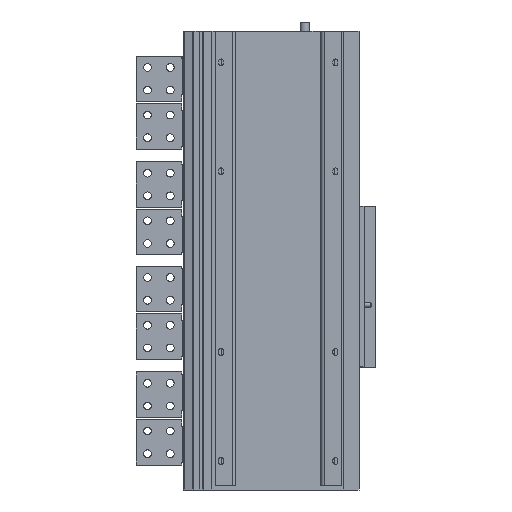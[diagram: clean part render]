
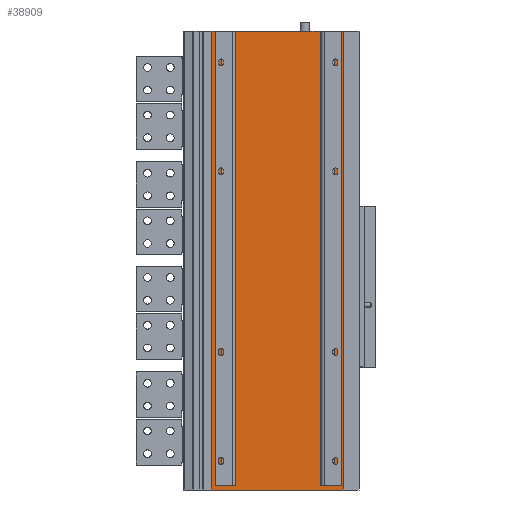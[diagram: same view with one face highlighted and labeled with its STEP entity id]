
A CAD part, front view. The second image highlights one B-rep face of the part: STEP entity #38909.
In plain terms, the highlighted planar face has unit normal (0, -1, 0).
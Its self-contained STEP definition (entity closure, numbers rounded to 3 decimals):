
#959 = CARTESIAN_POINT ( 'NONE',  ( 4863.475, 249.653, 1002. ) ) ;
#1373 = CARTESIAN_POINT ( 'NONE',  ( 4908.475, 249.653, 0. ) ) ;
#1499 = ORIENTED_EDGE ( 'NONE', *, *, #8264, .F. ) ;
#2303 = LINE ( 'NONE', #44612, #46570 ) ;
#3344 = DIRECTION ( 'NONE',  ( 1., 0., 0. ) ) ;
#3855 = DIRECTION ( 'NONE',  ( 0., 0., -1. ) ) ;
#4693 = AXIS2_PLACEMENT_3D ( 'NONE', #24296, #45718, #23134 ) ;
#7874 = VERTEX_POINT ( 'NONE', #24193 ) ;
#7881 = ORIENTED_EDGE ( 'NONE', *, *, #12792, .F. ) ;
#8172 = DIRECTION ( 'NONE',  ( 1., 0., 0. ) ) ;
#8264 = EDGE_CURVE ( 'NONE', #8837, #28194, #35348, .T. ) ;
#8345 = EDGE_CURVE ( 'NONE', #28194, #48665, #37108, .T. ) ;
#8420 = ORIENTED_EDGE ( 'NONE', *, *, #8345, .F. ) ;
#8837 = VERTEX_POINT ( 'NONE', #11453 ) ;
#8848 = CARTESIAN_POINT ( 'NONE',  ( 4863.475, 249.653, 1002. ) ) ;
#9887 = VECTOR ( 'NONE', #3855, 1000. ) ;
#10128 = EDGE_CURVE ( 'NONE', #23668, #30388, #22195, .T. ) ;
#10705 = CARTESIAN_POINT ( 'NONE',  ( 4863.475, 249.653, -9. ) ) ;
#11453 = CARTESIAN_POINT ( 'NONE',  ( 5133.475, 249.653, 1002. ) ) ;
#12640 = DIRECTION ( 'NONE',  ( 1., 0., 0. ) ) ;
#12792 = EDGE_CURVE ( 'NONE', #41933, #30388, #24219, .T. ) ;
#12804 = CARTESIAN_POINT ( 'NONE',  ( 5133.475, 249.653, 0. ) ) ;
#14657 = VERTEX_POINT ( 'NONE', #43882 ) ;
#15285 = VECTOR ( 'NONE', #28212, 1000. ) ;
#15405 = CARTESIAN_POINT ( 'NONE',  ( 4885.475, 249.653, 760. ) ) ;
#15658 = ORIENTED_EDGE ( 'NONE', *, *, #44193, .F. ) ;
#15848 = VECTOR ( 'NONE', #8172, 1000. ) ;
#17348 = ORIENTED_EDGE ( 'NONE', *, *, #21811, .F. ) ;
#18135 = ORIENTED_EDGE ( 'NONE', *, *, #46595, .F. ) ;
#18877 = CARTESIAN_POINT ( 'NONE',  ( 5110.475, 249.653, 0. ) ) ;
#18988 = CARTESIAN_POINT ( 'NONE',  ( 5133.475, 249.653, 0. ) ) ;
#19384 = CARTESIAN_POINT ( 'NONE',  ( 5133.475, 249.653, 760. ) ) ;
#19504 = VECTOR ( 'NONE', #26995, 1000. ) ;
#20354 = DIRECTION ( 'NONE',  ( 1., 0., 0. ) ) ;
#21093 = CARTESIAN_POINT ( 'NONE',  ( 5152.975, 249.653, 1002. ) ) ;
#21811 = EDGE_CURVE ( 'NONE', #42009, #14657, #36802, .T. ) ;
#21865 = CARTESIAN_POINT ( 'NONE',  ( 4908.475, 249.653, 1002. ) ) ;
#21917 = VERTEX_POINT ( 'NONE', #39664 ) ;
#22086 = ORIENTED_EDGE ( 'NONE', *, *, #40634, .F. ) ;
#22195 = LINE ( 'NONE', #47401, #41712 ) ;
#22457 = DIRECTION ( 'NONE',  ( 1., 0., 0. ) ) ;
#22491 = ORIENTED_EDGE ( 'NONE', *, *, #10128, .T. ) ;
#22797 = LINE ( 'NONE', #8848, #41702 ) ;
#23134 = DIRECTION ( 'NONE',  ( 0., 0., 1. ) ) ;
#23400 = CARTESIAN_POINT ( 'NONE',  ( 5152.975, 249.653, -9. ) ) ;
#23668 = VERTEX_POINT ( 'NONE', #21865 ) ;
#23962 = VECTOR ( 'NONE', #27118, 1000. ) ;
#24193 = CARTESIAN_POINT ( 'NONE',  ( 5110.475, 249.653, 1002. ) ) ;
#24219 = LINE ( 'NONE', #18988, #42523 ) ;
#24296 = CARTESIAN_POINT ( 'NONE',  ( 0., 249.653, 760. ) ) ;
#24482 = DIRECTION ( 'NONE',  ( 0., 0., -1. ) ) ;
#25361 = EDGE_CURVE ( 'NONE', #8837, #14657, #47266, .T. ) ;
#26780 = PLANE ( 'NONE',  #4693 ) ;
#26995 = DIRECTION ( 'NONE',  ( 0., 0., -1. ) ) ;
#27118 = DIRECTION ( 'NONE',  ( 0., 0., -1. ) ) ;
#28042 = ORIENTED_EDGE ( 'NONE', *, *, #25361, .T. ) ;
#28194 = VERTEX_POINT ( 'NONE', #21093 ) ;
#28212 = DIRECTION ( 'NONE',  ( 0., 0., -1. ) ) ;
#29985 = VECTOR ( 'NONE', #3344, 1000. ) ;
#30388 = VERTEX_POINT ( 'NONE', #1373 ) ;
#31752 = LINE ( 'NONE', #38002, #9887 ) ;
#32670 = VERTEX_POINT ( 'NONE', #10705 ) ;
#33104 = VECTOR ( 'NONE', #43094, 1000. ) ;
#34946 = EDGE_LOOP ( 'NONE', ( #28042, #17348, #18135, #22086, #22491, #7881, #15658, #40838, #38167, #47316, #8420, #1499 ) ) ;
#35348 = LINE ( 'NONE', #45097, #15848 ) ;
#35644 = EDGE_CURVE ( 'NONE', #36222, #32670, #31752, .T. ) ;
#35678 = CARTESIAN_POINT ( 'NONE',  ( 5110.475, 249.653, 760. ) ) ;
#36222 = VERTEX_POINT ( 'NONE', #959 ) ;
#36801 = EDGE_CURVE ( 'NONE', #36222, #21917, #22797, .T. ) ;
#36802 = LINE ( 'NONE', #12804, #40971 ) ;
#37108 = LINE ( 'NONE', #39259, #15285 ) ;
#37646 = LINE ( 'NONE', #45076, #29985 ) ;
#38002 = CARTESIAN_POINT ( 'NONE',  ( 4863.475, 249.653, 760. ) ) ;
#38022 = CARTESIAN_POINT ( 'NONE',  ( 4885.475, 249.653, 0. ) ) ;
#38167 = ORIENTED_EDGE ( 'NONE', *, *, #35644, .T. ) ;
#38909 = ADVANCED_FACE ( 'NONE', ( #48532 ), #26780, .F. ) ;
#39259 = CARTESIAN_POINT ( 'NONE',  ( 5152.975, 249.653, 760. ) ) ;
#39664 = CARTESIAN_POINT ( 'NONE',  ( 4885.475, 249.653, 1002. ) ) ;
#39866 = LINE ( 'NONE', #15405, #23962 ) ;
#40634 = EDGE_CURVE ( 'NONE', #23668, #7874, #2303, .T. ) ;
#40838 = ORIENTED_EDGE ( 'NONE', *, *, #36801, .F. ) ;
#40971 = VECTOR ( 'NONE', #12640, 1000. ) ;
#41169 = DIRECTION ( 'NONE',  ( 1., 0., 0. ) ) ;
#41702 = VECTOR ( 'NONE', #20354, 1000. ) ;
#41712 = VECTOR ( 'NONE', #24482, 1000. ) ;
#41933 = VERTEX_POINT ( 'NONE', #38022 ) ;
#42009 = VERTEX_POINT ( 'NONE', #18877 ) ;
#42523 = VECTOR ( 'NONE', #22457, 1000. ) ;
#42922 = EDGE_CURVE ( 'NONE', #32670, #48665, #37646, .T. ) ;
#43094 = DIRECTION ( 'NONE',  ( 0., 0., -1. ) ) ;
#43118 = LINE ( 'NONE', #35678, #33104 ) ;
#43882 = CARTESIAN_POINT ( 'NONE',  ( 5133.475, 249.653, 0. ) ) ;
#44193 = EDGE_CURVE ( 'NONE', #21917, #41933, #39866, .T. ) ;
#44612 = CARTESIAN_POINT ( 'NONE',  ( 4908.475, 249.653, 1002. ) ) ;
#45076 = CARTESIAN_POINT ( 'NONE',  ( 4863.475, 249.653, -9. ) ) ;
#45097 = CARTESIAN_POINT ( 'NONE',  ( 5133.475, 249.653, 1002. ) ) ;
#45718 = DIRECTION ( 'NONE',  ( 0., 1., 0. ) ) ;
#46570 = VECTOR ( 'NONE', #41169, 1000. ) ;
#46595 = EDGE_CURVE ( 'NONE', #7874, #42009, #43118, .T. ) ;
#47266 = LINE ( 'NONE', #19384, #19504 ) ;
#47316 = ORIENTED_EDGE ( 'NONE', *, *, #42922, .T. ) ;
#47401 = CARTESIAN_POINT ( 'NONE',  ( 4908.475, 249.653, 760. ) ) ;
#48532 = FACE_OUTER_BOUND ( 'NONE', #34946, .T. ) ;
#48665 = VERTEX_POINT ( 'NONE', #23400 ) ;
